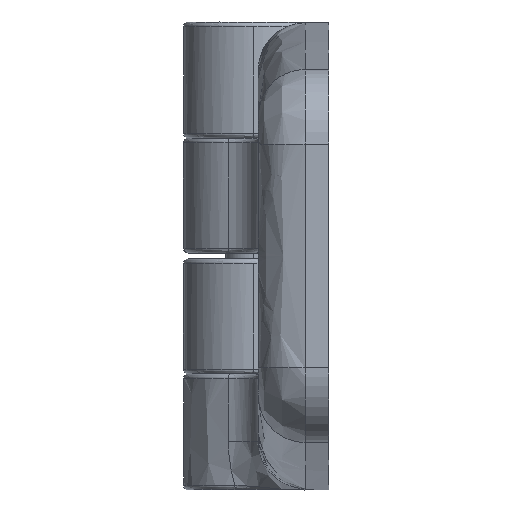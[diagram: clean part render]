
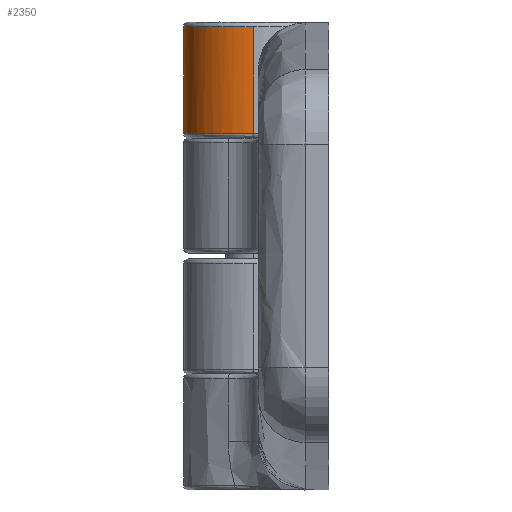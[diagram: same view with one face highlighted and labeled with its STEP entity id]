
A CAD part, left-side view. The second image highlights one B-rep face of the part: STEP entity #2350.
In plain terms, the highlighted free-form (B-spline) face has degree [1, 3] with [2, 4] control points.
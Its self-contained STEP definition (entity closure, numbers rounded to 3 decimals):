
#21 = EDGE_CURVE ( 'NONE', #2360, #8672, #238, .T. ) ;
#238 = B_SPLINE_CURVE_WITH_KNOTS ( 'NONE', 3,
 ( #6984, #4825, #1707, #6900, #7752, #399, #8385, #4118, #7030, #993, #6855, #6940, #3192, #6126, #3289, #1036 ),
 .UNSPECIFIED., .F., .F.,
 ( 4, 2, 2, 2, 2, 2, 2, 4 ),
 ( 0., 0.247, 0.495, 0.618, 0.68, 0.742, 0.989, 1. ),
 .UNSPECIFIED. ) ;
#303 = ORIENTED_EDGE ( 'NONE', *, *, #4958, .T. ) ;
#372 = CARTESIAN_POINT ( 'NONE',  ( 4.997, 10.7, 44.827 ) ) ;
#399 = CARTESIAN_POINT ( 'NONE',  ( 5.072, 10.498, 47.406 ) ) ;
#549 = CARTESIAN_POINT ( 'NONE',  ( 2.29, 21.382, 49.5 ) ) ;
#597 =( BOUNDED_CURVE ( )  B_SPLINE_CURVE ( 3, ( #1971, #4912, #6130, #4652 ),
 .UNSPECIFIED., .F., .F. ) 
 B_SPLINE_CURVE_WITH_KNOTS ( ( 4, 4 ),
 ( 0., 2.773 ),
 .UNSPECIFIED. ) 
 CURVE ( )  GEOMETRIC_REPRESENTATION_ITEM ( )  RATIONAL_B_SPLINE_CURVE ( ( 0.957, 0.436, 0.436, 0.957 ) ) 
 REPRESENTATION_ITEM ( '' )  );
#604 = CARTESIAN_POINT ( 'NONE',  ( -9.5, 8., 49.5 ) ) ;
#993 = CARTESIAN_POINT ( 'NONE',  ( 5.121, 10.353, 48.175 ) ) ;
#1036 = CARTESIAN_POINT ( 'NONE',  ( 5.228, 10., 49.5 ) ) ;
#1707 = CARTESIAN_POINT ( 'NONE',  ( 5.003, 10.685, 45.635 ) ) ;
#1971 = CARTESIAN_POINT ( 'NONE',  ( -9.5, 8., 38.1 ) ) ;
#1988 = CARTESIAN_POINT ( 'NONE',  ( -9.5, 8., 49.5 ) ) ;
#2031 = CARTESIAN_POINT ( 'NONE',  ( -9.5, 19.885, 38.1 ) ) ;
#2051 = EDGE_LOOP ( 'NONE', ( #8082, #5312, #9226, #2884, #303 ) ) ;
#2139 =( BOUNDED_CURVE ( )  B_SPLINE_CURVE ( 3, ( #8657, #2823, #7831, #6578, #9322, #2920, #5754 ),
 .UNSPECIFIED., .F., .F. ) 
 B_SPLINE_CURVE_WITH_KNOTS ( ( 4, 3, 4 ),
 ( 0.27, 2.544, 3.142 ),
 .UNSPECIFIED. ) 
 CURVE ( )  GEOMETRIC_REPRESENTATION_ITEM ( )  RATIONAL_B_SPLINE_CURVE ( ( 0.957, 0.575, 0.575, 0.957, 0.856, 0.782, 0.735 ) ) 
 REPRESENTATION_ITEM ( '' )  );
#2350 = ADVANCED_FACE ( 'NONE', ( #7090 ), #9005, .F. ) ;
#2360 = VERTEX_POINT ( 'NONE', #7714 ) ;
#2667 = CARTESIAN_POINT ( 'NONE',  ( 5.262, 9.876, 38.1 ) ) ;
#2823 = CARTESIAN_POINT ( 'NONE',  ( 3.196, 17.345, 49.5 ) ) ;
#2884 = ORIENTED_EDGE ( 'NONE', *, *, #4086, .F. ) ;
#2920 = CARTESIAN_POINT ( 'NONE',  ( -9.5, 9.471, 49.5 ) ) ;
#3192 = CARTESIAN_POINT ( 'NONE',  ( 5.193, 10.126, 49.101 ) ) ;
#3289 = CARTESIAN_POINT ( 'NONE',  ( 5.227, 10.005, 49.484 ) ) ;
#3380 = VERTEX_POINT ( 'NONE', #9305 ) ;
#3482 = CARTESIAN_POINT ( 'NONE',  ( -9.5, 8., 38.1 ) ) ;
#3701 = VERTEX_POINT ( 'NONE', #6492 ) ;
#4086 = EDGE_CURVE ( 'NONE', #3701, #3380, #597, .T. ) ;
#4118 = CARTESIAN_POINT ( 'NONE',  ( 5.102, 10.411, 47.888 ) ) ;
#4174 = CARTESIAN_POINT ( 'NONE',  ( 5.228, 10., 49.5 ) ) ;
#4227 = CARTESIAN_POINT ( 'NONE',  ( -9.5, 19.885, 49.5 ) ) ;
#4396 = CARTESIAN_POINT ( 'NONE',  ( -9.5, 8., 49.5 ) ) ;
#4582 = EDGE_CURVE ( 'NONE', #8672, #6529, #2139, .T. ) ;
#4652 = CARTESIAN_POINT ( 'NONE',  ( 4.997, 10.7, 38.1 ) ) ;
#4788 = CARTESIAN_POINT ( 'NONE',  ( 5.262, 9.876, 49.5 ) ) ;
#4825 = CARTESIAN_POINT ( 'NONE',  ( 4.997, 10.7, 45.233 ) ) ;
#4912 = CARTESIAN_POINT ( 'NONE',  ( -9.5, 18.794, 38.1 ) ) ;
#4958 = EDGE_CURVE ( 'NONE', #3701, #6529, #8998, .T. ) ;
#4977 = CARTESIAN_POINT ( 'NONE',  ( 2.29, 21.382, 38.1 ) ) ;
#5312 = ORIENTED_EDGE ( 'NONE', *, *, #21, .F. ) ;
#5418 = B_SPLINE_CURVE_WITH_KNOTS ( 'NONE', 1,
 ( #7002, #372 ),
 .UNSPECIFIED., .F., .F.,
 ( 2, 2 ),
 ( -1., 0. ),
 .UNSPECIFIED. ) ;
#5749 = EDGE_CURVE ( 'NONE', #3380, #2360, #5418, .T. ) ;
#5754 = CARTESIAN_POINT ( 'NONE',  ( -9.5, 8., 49.5 ) ) ;
#6126 = CARTESIAN_POINT ( 'NONE',  ( 5.226, 10.01, 49.469 ) ) ;
#6130 = CARTESIAN_POINT ( 'NONE',  ( 1.111, 20.77, 38.1 ) ) ;
#6492 = CARTESIAN_POINT ( 'NONE',  ( -9.5, 8., 38.1 ) ) ;
#6529 = VERTEX_POINT ( 'NONE', #4396 ) ;
#6578 = CARTESIAN_POINT ( 'NONE',  ( -8.37, 11.959, 49.5 ) ) ;
#6855 = CARTESIAN_POINT ( 'NONE',  ( 5.128, 10.332, 48.269 ) ) ;
#6900 = CARTESIAN_POINT ( 'NONE',  ( 5.025, 10.627, 46.43 ) ) ;
#6940 = CARTESIAN_POINT ( 'NONE',  ( 5.163, 10.225, 48.738 ) ) ;
#6984 = CARTESIAN_POINT ( 'NONE',  ( 4.997, 10.7, 44.827 ) ) ;
#7002 = CARTESIAN_POINT ( 'NONE',  ( 4.997, 10.7, 38.1 ) ) ;
#7030 = CARTESIAN_POINT ( 'NONE',  ( 5.108, 10.392, 47.984 ) ) ;
#7090 = FACE_OUTER_BOUND ( 'NONE', #2051, .T. ) ;
#7714 = CARTESIAN_POINT ( 'NONE',  ( 4.997, 10.7, 44.827 ) ) ;
#7752 = CARTESIAN_POINT ( 'NONE',  ( 5.041, 10.584, 46.823 ) ) ;
#7831 = CARTESIAN_POINT ( 'NONE',  ( -4.347, 18.432, 49.5 ) ) ;
#7962 = CARTESIAN_POINT ( 'NONE',  ( -9.5, 8., 38.1 ) ) ;
#8082 = ORIENTED_EDGE ( 'NONE', *, *, #4582, .F. ) ;
#8385 = CARTESIAN_POINT ( 'NONE',  ( 5.083, 10.465, 47.6 ) ) ;
#8657 = CARTESIAN_POINT ( 'NONE',  ( 5.228, 10., 49.5 ) ) ;
#8672 = VERTEX_POINT ( 'NONE', #4174 ) ;
#8998 = B_SPLINE_CURVE_WITH_KNOTS ( 'NONE', 1,
 ( #7962, #604 ),
 .UNSPECIFIED., .F., .F.,
 ( 2, 2 ),
 ( -1., 0. ),
 .UNSPECIFIED. ) ;
#9005 =( BOUNDED_SURFACE ( )  B_SPLINE_SURFACE ( 1, 3, ( 
 ( #1988, #4227, #549, #4788 ),
 ( #3482, #2031, #4977, #2667 ) ),
 .UNSPECIFIED., .F., .F., .F. ) 
 B_SPLINE_SURFACE_WITH_KNOTS ( ( 2, 2 ),
 ( 4, 4 ),
 ( 0., 1. ),
 ( 0., 1. ),
 .UNSPECIFIED. ) 
 GEOMETRIC_REPRESENTATION_ITEM ( )  RATIONAL_B_SPLINE_SURFACE ( (
 ( 1., 0.417, 0.417, 1.),
 ( 1., 0.417, 0.417, 1.) ) ) 
 REPRESENTATION_ITEM ( '' )  SURFACE ( )  );
#9226 = ORIENTED_EDGE ( 'NONE', *, *, #5749, .F. ) ;
#9305 = CARTESIAN_POINT ( 'NONE',  ( 4.997, 10.7, 38.1 ) ) ;
#9322 = CARTESIAN_POINT ( 'NONE',  ( -9.079, 10.818, 49.5 ) ) ;
